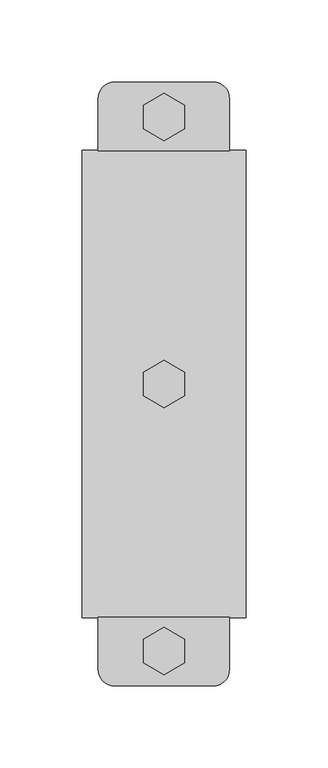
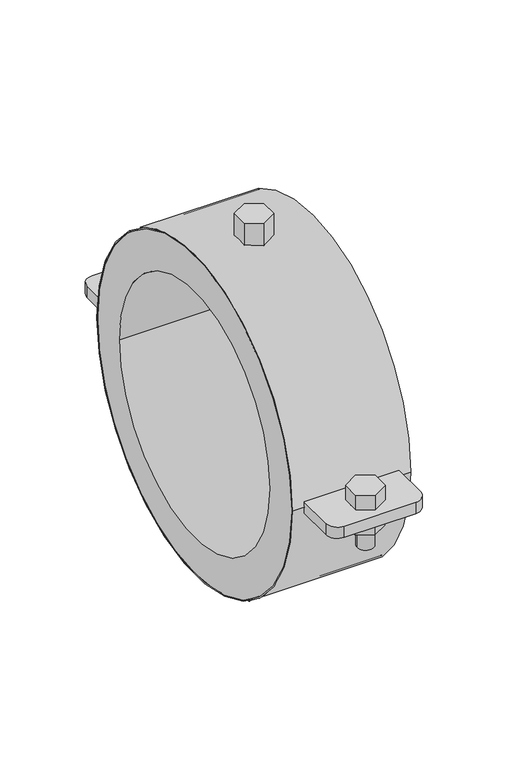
"""IFC4 building model written with IfcOpenShell, lengths in millimetres: pipe fitting geometry, СТ_Подвесы_ДляТруб_IsotermUltima_D10-219_СимфонияТепла : Isoterm ULT 32-219."""

from ifc_helpers import new_model, si_unit, point, frame, frame_2d, origin, origin_2d, place, context, project, spatial, polyline, circle_curve, trimmed, segment, composite_curve, outline, extrude, source, transform, mapped, element, save
from ifc_brep_helpers import plane_surface, cylinder_surface, advanced_brep


def pipe_fitting_854d4d4e(model_context):
    return source(origin(), model_context, "Body", "SolidModel", [
        extrude(outline(polyline([(12.5, 156.4363249), (0.0, 149.2194465), (-12.5, 156.4363249), (-12.5, 170.8700816), (0.0, 178.08696), (12.5, 170.8700816), (12.5, 156.4363249)])), frame((0.0, 0.0, -18.0), z_axis=(0.0, 0.0, 1.0), x_axis=(1.0, 0.0, 0.0)), (0.0, 0.0, 1.0), 13.0),
        advanced_brep(
        [(-7.0, 162.725, -35.0), (7.0, 162.725, -35.0), (7.0, 162.725, 5.0), (-7.0, 162.725, 5.0), (12.5, 155.5081216, 18.0), (12.5, 169.9418784, 18.0), (0.0, 177.1587567, 18.0), (-12.5, 169.9418784, 18.0), (-12.5, 155.5081216, 18.0), (0.0, 148.2912433, 18.0), (12.5, 155.5081216, 5.0), (0.0, 148.2912433, 5.0), (-12.5, 155.5081216, 5.0), (-12.5, 169.9418784, 5.0), (0.0, 177.1587567, 5.0), (12.5, 169.9418784, 5.0)],
        [
            (0, 1, circle_curve(frame((0.0, 162.725, -35.0), z_axis=(0.0, 0.0, -1.0), x_axis=(1.0, 0.0, 0.0)), 7.0)),
            (1, 0, circle_curve(frame((0.0, 162.725, -35.0), z_axis=(0.0, 0.0, -1.0), x_axis=(1.0, 0.0, 0.0)), 7.0)),
            (1, 2),
            (2, 3, circle_curve(frame((0.0, 162.725, 5.0), z_axis=(0.0, 0.0, -1.0), x_axis=(1.0, 0.0, 0.0)), 7.0)),
            (3, 0),
            (3, 2, circle_curve(frame((0.0, 162.725, 5.0), z_axis=(0.0, 0.0, -1.0), x_axis=(1.0, 0.0, 0.0)), 7.0)),
            (4, 5),
            (5, 6),
            (6, 7),
            (7, 8),
            (8, 9),
            (9, 4),
            (10, 11),
            (11, 12),
            (12, 13),
            (13, 14),
            (14, 15),
            (15, 10),
            (4, 10),
            (15, 5),
            (14, 6),
            (13, 7),
            (12, 8),
            (11, 9),
        ],
        [
            plane_surface(frame((7.0, 162.725, -35.0), z_axis=(0.0, 0.0, -1.0), x_axis=(0.0, -1.0, 0.0))),
            cylinder_surface(frame((0.0, 162.725, -35.0), z_axis=(0.0, 0.0, 1.0), x_axis=(1.0, 0.0, 0.0)), 7.0),
            plane_surface(frame((12.5, 155.5081216, 18.0), z_axis=(0.0, 0.0, 1.0), x_axis=(0.0, 1.0, 0.0))),
            plane_surface(frame((12.5, 155.5081216, 5.0), z_axis=(0.0, 0.0, -1.0), x_axis=(0.0, -1.0, 0.0))),
            plane_surface(frame((12.5, 155.5081216, 18.0), z_axis=(1.0, 0.0, 0.0), x_axis=(0.0, 0.0, -1.0))),
            plane_surface(frame((12.5, 169.9418784, 18.0), z_axis=(0.5000000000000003, 0.8660254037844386, 0.0), x_axis=(0.0, 0.0, -1.0))),
            plane_surface(frame((0.0, 177.1587567, 18.0), z_axis=(-0.5000000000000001, 0.8660254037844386, 0.0), x_axis=(0.0, 0.0, -1.0))),
            plane_surface(frame((-12.5, 169.9418784, 18.0), z_axis=(-1.0, 0.0, 0.0), x_axis=(0.0, 0.0, -1.0))),
            plane_surface(frame((-12.5, 155.5081216, 18.0), z_axis=(-0.5000000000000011, -0.8660254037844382, 0.0), x_axis=(0.0, 0.0, -1.0))),
            plane_surface(frame((0.0, 148.2912433, 18.0), z_axis=(0.5000000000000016, -0.8660254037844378, 0.0), x_axis=(0.0, 0.0, -1.0))),
        ],
        [
            (0, [[1, 2]]),
            (1, [[-2, 3, 4, 5]]),
            (1, [[-1, -5, 6, -3]]),
            (2, [[7, 8, 9, 10, 11, 12]]),
            (3, [[13, 14, 15, 16, 17, 18], [-4, -6]]),
            (4, [[-7, 19, -18, 20]]),
            (5, [[-8, -20, -17, 21]]),
            (6, [[-9, -21, -16, 22]]),
            (7, [[-10, -22, -15, 23]]),
            (8, [[-11, -23, -14, 24]]),
            (9, [[-12, -24, -13, -19]]),
        ],
    ),
        extrude(outline(polyline([(12.5, -169.0136751), (0.0, -176.2305535), (-12.5, -169.0136751), (-12.5, -154.5799184), (0.0, -147.36304), (12.5, -154.5799184), (12.5, -169.0136751)])), frame((0.0, 0.0, -18.0), z_axis=(0.0, 0.0, 1.0), x_axis=(1.0, 0.0, 0.0)), (0.0, 0.0, 1.0), 13.0),
        advanced_brep(
        [(-7.0, -162.725, -35.0), (7.0, -162.725, -35.0), (7.0, -162.725, 5.0), (-7.0, -162.725, 5.0), (12.5, -169.9418784, 18.0), (12.5, -155.5081216, 18.0), (0.0, -148.2912433, 18.0), (-12.5, -155.5081216, 18.0), (-12.5, -169.9418784, 18.0), (0.0, -177.1587567, 18.0), (12.5, -169.9418784, 5.0), (0.0, -177.1587567, 5.0), (-12.5, -169.9418784, 5.0), (-12.5, -155.5081216, 5.0), (0.0, -148.2912433, 5.0), (12.5, -155.5081216, 5.0)],
        [
            (0, 1, circle_curve(frame((0.0, -162.725, -35.0), z_axis=(0.0, 0.0, -1.0), x_axis=(1.0, 0.0, 0.0)), 7.0)),
            (1, 0, circle_curve(frame((0.0, -162.725, -35.0), z_axis=(0.0, 0.0, -1.0), x_axis=(1.0, 0.0, 0.0)), 7.0)),
            (1, 2),
            (2, 3, circle_curve(frame((0.0, -162.725, 5.0), z_axis=(0.0, 0.0, -1.0), x_axis=(1.0, 0.0, 0.0)), 7.0)),
            (3, 0),
            (3, 2, circle_curve(frame((0.0, -162.725, 5.0), z_axis=(0.0, 0.0, -1.0), x_axis=(1.0, 0.0, 0.0)), 7.0)),
            (4, 5),
            (5, 6),
            (6, 7),
            (7, 8),
            (8, 9),
            (9, 4),
            (10, 11),
            (11, 12),
            (12, 13),
            (13, 14),
            (14, 15),
            (15, 10),
            (4, 10),
            (15, 5),
            (14, 6),
            (13, 7),
            (12, 8),
            (11, 9),
        ],
        [
            plane_surface(frame((7.0, -162.725, -35.0), z_axis=(0.0, 0.0, -1.0), x_axis=(0.0, -1.0, 0.0))),
            cylinder_surface(frame((0.0, -162.725, -35.0), z_axis=(0.0, 0.0, 1.0), x_axis=(1.0, 0.0, 0.0)), 7.0),
            plane_surface(frame((12.5, -169.9418784, 18.0), z_axis=(0.0, 0.0, 1.0), x_axis=(0.0, 1.0, 0.0))),
            plane_surface(frame((12.5, -169.9418784, 5.0), z_axis=(0.0, 0.0, -1.0), x_axis=(0.0, -1.0, 0.0))),
            plane_surface(frame((12.5, -169.9418784, 18.0), z_axis=(1.0, 0.0, 0.0), x_axis=(0.0, 0.0, -1.0))),
            plane_surface(frame((12.5, -155.5081216, 18.0), z_axis=(0.5000000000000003, 0.8660254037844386, 0.0), x_axis=(0.0, 0.0, -1.0))),
            plane_surface(frame((0.0, -148.2912433, 18.0), z_axis=(-0.5000000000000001, 0.8660254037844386, 0.0), x_axis=(0.0, 0.0, -1.0))),
            plane_surface(frame((-12.5, -155.5081216, 18.0), z_axis=(-1.0, 0.0, 0.0), x_axis=(0.0, 0.0, -1.0))),
            plane_surface(frame((-12.5, -169.9418784, 18.0), z_axis=(-0.5000000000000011, -0.8660254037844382, 0.0), x_axis=(0.0, 0.0, -1.0))),
            plane_surface(frame((0.0, -177.1587567, 18.0), z_axis=(0.5000000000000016, -0.8660254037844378, 0.0), x_axis=(0.0, 0.0, -1.0))),
        ],
        [
            (0, [[1, 2]]),
            (1, [[-2, 3, 4, 5]]),
            (1, [[-1, -5, 6, -3]]),
            (2, [[7, 8, 9, 10, 11, 12]]),
            (3, [[13, 14, 15, 16, 17, 18], [-4, -6]]),
            (4, [[-7, 19, -18, 20]]),
            (5, [[-8, -20, -17, 21]]),
            (6, [[-9, -21, -16, 22]]),
            (7, [[-10, -22, -15, 23]]),
            (8, [[-11, -23, -14, 24]]),
            (9, [[-12, -24, -13, -19]]),
        ],
    ),
        extrude(outline(composite_curve([segment(trimmed(circle_curve(origin_2d(), 142.5), [point((-142.5, 0.0))], [point((142.5, 0.0))], False, "CARTESIAN"), True, "CONTINUOUS"), segment(trimmed(circle_curve(origin_2d(), 142.5), [point((142.5, 0.0))], [point((-142.5, 0.0))], False, "CARTESIAN"), True, "CONTINUOUS")], self_intersect=False), holes=[composite_curve([segment(trimmed(circle_curve(origin_2d(), 141.5), [point((-141.5, 0.0))], [point((141.5, 0.0))], True, "CARTESIAN"), True, "CONTINUOUS"), segment(trimmed(circle_curve(origin_2d(), 141.5), [point((141.5, 0.0))], [point((-141.5, 0.0))], True, "CARTESIAN"), True, "CONTINUOUS")], self_intersect=False)]), frame((-50.0, 0.0, 0.0), z_axis=(1.0, 0.0, 0.0), x_axis=(0.0, 1.0, 0.0)), (0.0, 0.0, 1.0), 100.0),
        extrude(outline(polyline([(12.5, -7.2168784), (0.0, -14.4337567), (-12.5, -7.2168784), (-12.5, 7.2168784), (0.0, 14.4337567), (12.5, 7.2168784), (12.5, -7.2168784)])), frame((0.0, 0.0, 141.5), z_axis=(0.0, 0.0, 1.0), x_axis=(1.0, 0.0, 0.0)), (0.0, 0.0, 1.0), 20.0),
        extrude(outline(composite_curve([segment(trimmed(circle_curve(frame_2d((-30.0, 173.95)), 10.0), [point((-40.0, 173.95))], [point((-30.0, 183.95))], False, "CARTESIAN"), True, "CONTINUOUS"), segment(polyline([(-30.0, 183.95), (30.0, 183.95)]), True, "CONTINUOUS"), segment(trimmed(circle_curve(frame_2d((30.0, 173.95)), 10.0), [point((30.0, 183.95))], [point((40.0, 173.95))], False, "CARTESIAN"), True, "CONTINUOUS"), segment(polyline([(40.0, 173.95), (40.0, 141.5), (-40.0, 141.5), (-40.0, 173.95)]), True, "CONTINUOUS")], self_intersect=False)), frame((0.0, 0.0, -5.0), z_axis=(0.0, 0.0, 1.0), x_axis=(1.0, 0.0, 0.0)), (0.0, 0.0, 1.0), 10.0),
        extrude(outline(composite_curve([segment(polyline([(-40.0, -141.5), (40.0, -141.5), (40.0, -173.95)]), True, "CONTINUOUS"), segment(trimmed(circle_curve(frame_2d((30.0, -173.95)), 10.0), [point((40.0, -173.95))], [point((30.0, -183.95))], False, "CARTESIAN"), True, "CONTINUOUS"), segment(polyline([(30.0, -183.95), (-30.0, -183.95)]), True, "CONTINUOUS"), segment(trimmed(circle_curve(frame_2d((-30.0, -173.95)), 10.0), [point((-30.0, -183.95))], [point((-40.0, -173.95))], False, "CARTESIAN"), True, "CONTINUOUS"), segment(polyline([(-40.0, -173.95), (-40.0, -141.5)]), True, "CONTINUOUS")], self_intersect=False)), frame((0.0, 0.0, -5.0), z_axis=(0.0, 0.0, 1.0), x_axis=(1.0, 0.0, 0.0)), (0.0, 0.0, 1.0), 10.0),
        extrude(outline(composite_curve([segment(trimmed(circle_curve(origin_2d(), 141.5), [point((-141.5, 0.0))], [point((141.5, 0.0))], False, "CARTESIAN"), True, "CONTINUOUS"), segment(trimmed(circle_curve(origin_2d(), 141.5), [point((141.5, 0.0))], [point((-141.5, 0.0))], False, "CARTESIAN"), True, "CONTINUOUS")], self_intersect=False), holes=[composite_curve([segment(trimmed(circle_curve(origin_2d(), 109.5), [point((-109.5, 0.0))], [point((109.5, 0.0))], True, "CARTESIAN"), True, "CONTINUOUS"), segment(trimmed(circle_curve(origin_2d(), 109.5), [point((109.5, 0.0))], [point((-109.5, 0.0))], True, "CARTESIAN"), True, "CONTINUOUS")], self_intersect=False)]), frame((-50.0, 0.0, 0.0), z_axis=(1.0, 0.0, 0.0), x_axis=(0.0, 1.0, 0.0)), (0.0, 0.0, 1.0), 100.0),
    ])


if __name__ == "__main__":
    model = new_model("IFC4")
    model_context = context("Model", 3, world=origin())
    ifc_project = project(units=[si_unit("LENGTHUNIT", "METRE", prefix="MILLI")], contexts=[model_context])
    site = spatial("IfcSite", under=ifc_project)
    building = spatial("IfcBuilding", under=site)
    placement = place(None, origin())
    pipe_fitting_shape = pipe_fitting_854d4d4e(model_context)
    element("IfcPipeFitting", 1, ObjectType="СТ_Подвесы_ДляТруб_IsotermUltima_D10-219_СимфонияТепла : Isoterm ULT 32-219", at=placement, inside=building, context=model_context, shape_type="MappedRepresentation", body=[
        mapped(pipe_fitting_shape, transform((0.0, 0.0, 0.0), x_axis=(1.0, 0.0, 0.0), y_axis=(0.0, 1.0, 0.0), z_axis=(0.0, 0.0, 1.0))),
    ])
    save(model, "model.ifc")
